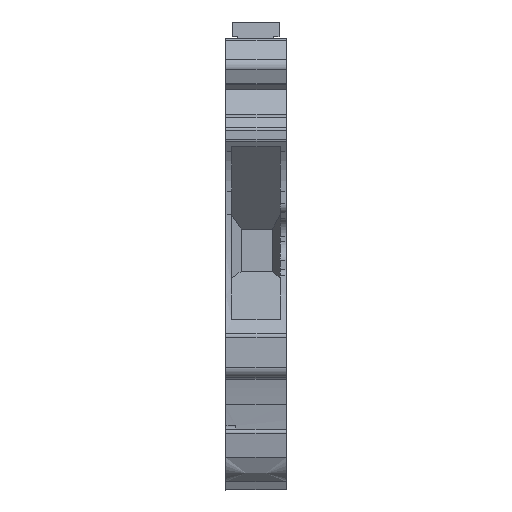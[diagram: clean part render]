
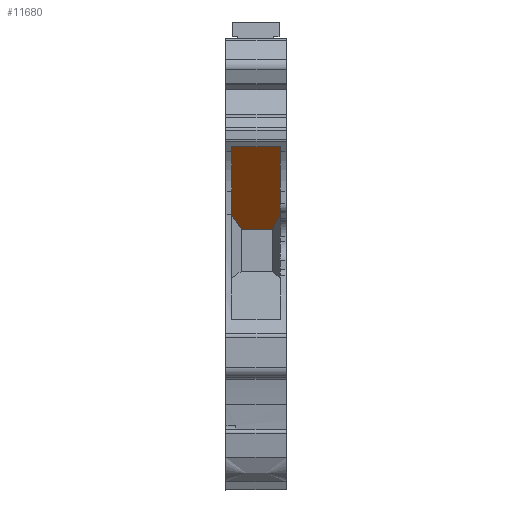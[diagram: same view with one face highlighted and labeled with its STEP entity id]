
A CAD part, left-side view. The second image highlights one B-rep face of the part: STEP entity #11680.
In plain terms, the highlighted planar face has unit normal (-0.719, 0, -0.695).
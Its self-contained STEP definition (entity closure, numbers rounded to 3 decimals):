
#5059=CARTESIAN_POINT('',(-18.675,4.6,20.6));
#5060=VERTEX_POINT('',#5059);
#5061=CARTESIAN_POINT('',(-20.032,5.55,22.005));
#5062=VERTEX_POINT('',#5061);
#5063=CARTESIAN_POINT('',(-18.675,4.6,20.6));
#5064=DIRECTION('',(-0.625,0.437,0.647));
#5065=VECTOR('',#5064,2.172);
#5066=LINE('',#5063,#5065);
#5067=EDGE_CURVE('',#5060,#5062,#5066,.T.);
#5100=CARTESIAN_POINT('',(-20.061,0.6,22.035));
#5101=VERTEX_POINT('',#5100);
#5102=CARTESIAN_POINT('',(-18.675,1.4,20.6));
#5103=VERTEX_POINT('',#5102);
#5104=CARTESIAN_POINT('',(-20.061,0.6,22.035));
#5105=DIRECTION('',(0.645,0.372,-0.668));
#5106=VECTOR('',#5105,2.149);
#5107=LINE('',#5104,#5106);
#5108=EDGE_CURVE('',#5101,#5103,#5107,.T.);
#6414=CARTESIAN_POINT('',(-26.762,5.55,28.974));
#6415=VERTEX_POINT('',#6414);
#6416=CARTESIAN_POINT('',(-20.032,5.55,22.005));
#6417=DIRECTION('',(-0.695,0.,0.719));
#6418=VECTOR('',#6417,9.688);
#6419=LINE('',#6416,#6418);
#6420=EDGE_CURVE('',#5062,#6415,#6419,.T.);
#6484=CARTESIAN_POINT('',(-26.762,0.6,28.974));
#6485=VERTEX_POINT('',#6484);
#6486=CARTESIAN_POINT('',(-26.762,5.55,28.974));
#6487=DIRECTION('',(0.,-1.,0.));
#6488=VECTOR('',#6487,4.95);
#6489=LINE('',#6486,#6488);
#6490=EDGE_CURVE('',#6415,#6485,#6489,.T.);
#8502=CARTESIAN_POINT('',(-26.762,0.6,28.974));
#8503=DIRECTION('',(0.695,0.,-0.719));
#8504=VECTOR('',#8503,9.647);
#8505=LINE('',#8502,#8504);
#8506=EDGE_CURVE('',#6485,#5101,#8505,.T.);
#11662=CARTESIAN_POINT('',(-22.653,3.075,24.719));
#11663=DIRECTION('',(0.695,0.,-0.719));
#11664=DIRECTION('',(-0.719,0.,-0.695));
#11665=AXIS2_PLACEMENT_3D('',#11662,#11664,#11663);
#11666=PLANE('',#11665);
#11667=ORIENTED_EDGE('',*,*,#6490,.F.);
#11668=ORIENTED_EDGE('',*,*,#6420,.F.);
#11669=ORIENTED_EDGE('',*,*,#5067,.F.);
#11670=CARTESIAN_POINT('',(-18.675,4.6,20.6));
#11671=DIRECTION('',(0.,-1.,0.));
#11672=VECTOR('',#11671,3.2);
#11673=LINE('',#11670,#11672);
#11674=EDGE_CURVE('',#5060,#5103,#11673,.T.);
#11675=ORIENTED_EDGE('E1329',*,*,#11674,.T.);
#11676=ORIENTED_EDGE('E1329',*,*,#5108,.F.);
#11677=ORIENTED_EDGE('E1329',*,*,#8506,.F.);
#11678=EDGE_LOOP('',(#11667,#11668,#11669,#11675,#11676,#11677));
#11679=FACE_OUTER_BOUND('',#11678,.T.);
#11680=ADVANCED_FACE('F355',(#11679),#11666,.T.);
